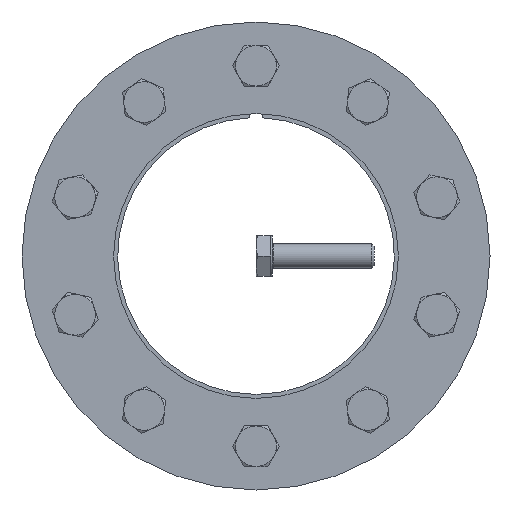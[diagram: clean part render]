
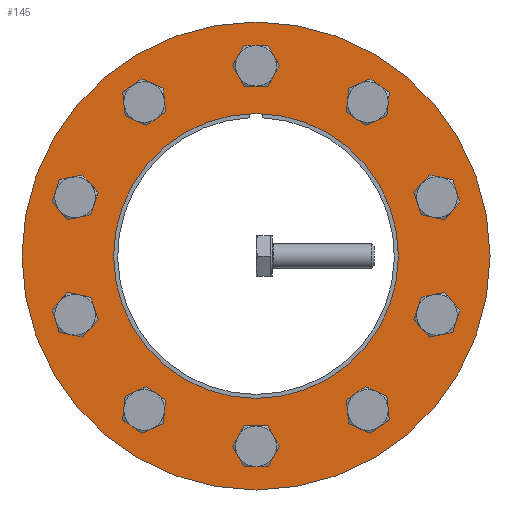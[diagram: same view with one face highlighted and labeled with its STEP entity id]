
A CAD part, front view. The second image highlights one B-rep face of the part: STEP entity #145.
In plain terms, the highlighted planar face has unit normal (0, -1, 0).
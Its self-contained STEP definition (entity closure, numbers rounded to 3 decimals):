
#145 = ADVANCED_FACE( '', ( #345, #346, #347, #348, #349, #350, #351, #352, #353, #354, #355, #356 ), #357, .F. );
#345 = FACE_BOUND( '', #578, .T. );
#346 = FACE_BOUND( '', #579, .T. );
#347 = FACE_BOUND( '', #580, .T. );
#348 = FACE_BOUND( '', #581, .T. );
#349 = FACE_BOUND( '', #582, .T. );
#350 = FACE_BOUND( '', #583, .T. );
#351 = FACE_OUTER_BOUND( '', #584, .T. );
#352 = FACE_BOUND( '', #585, .T. );
#353 = FACE_BOUND( '', #586, .T. );
#354 = FACE_BOUND( '', #587, .T. );
#355 = FACE_BOUND( '', #588, .T. );
#356 = FACE_BOUND( '', #589, .T. );
#357 = PLANE( '', #590 );
#578 = EDGE_LOOP( '', ( #945 ) );
#579 = EDGE_LOOP( '', ( #946 ) );
#580 = EDGE_LOOP( '', ( #947 ) );
#581 = EDGE_LOOP( '', ( #948 ) );
#582 = EDGE_LOOP( '', ( #949 ) );
#583 = EDGE_LOOP( '', ( #950 ) );
#584 = EDGE_LOOP( '', ( #951 ) );
#585 = EDGE_LOOP( '', ( #952 ) );
#586 = EDGE_LOOP( '', ( #953 ) );
#587 = EDGE_LOOP( '', ( #954 ) );
#588 = EDGE_LOOP( '', ( #955 ) );
#589 = EDGE_LOOP( '', ( #956 ) );
#590 = AXIS2_PLACEMENT_3D( '', #957, #958, #959 );
#945 = ORIENTED_EDGE( '', *, *, #1118, .T. );
#946 = ORIENTED_EDGE( '', *, *, #1140, .T. );
#947 = ORIENTED_EDGE( '', *, *, #1201, .T. );
#948 = ORIENTED_EDGE( '', *, *, #1169, .T. );
#949 = ORIENTED_EDGE( '', *, *, #1129, .T. );
#950 = ORIENTED_EDGE( '', *, *, #1210, .F. );
#951 = ORIENTED_EDGE( '', *, *, #1115, .T. );
#952 = ORIENTED_EDGE( '', *, *, #1126, .T. );
#953 = ORIENTED_EDGE( '', *, *, #1192, .T. );
#954 = ORIENTED_EDGE( '', *, *, #1121, .T. );
#955 = ORIENTED_EDGE( '', *, *, #1181, .T. );
#956 = ORIENTED_EDGE( '', *, *, #1211, .T. );
#957 = CARTESIAN_POINT( '', ( 0., -15.25, 57.5 ) );
#958 = DIRECTION( '', ( 0., 1., 0. ) );
#959 = DIRECTION( '', ( 0., 0., 1. ) );
#1115 = EDGE_CURVE( '', #1317, #1317, #1318, .T. );
#1118 = EDGE_CURVE( '', #1322, #1322, #1323, .T. );
#1121 = EDGE_CURVE( '', #1327, #1327, #1328, .T. );
#1126 = EDGE_CURVE( '', #1335, #1335, #1336, .T. );
#1129 = EDGE_CURVE( '', #1340, #1340, #1341, .T. );
#1140 = EDGE_CURVE( '', #1359, #1359, #1360, .T. );
#1169 = EDGE_CURVE( '', #1411, #1411, #1412, .T. );
#1181 = EDGE_CURVE( '', #1428, #1428, #1429, .T. );
#1192 = EDGE_CURVE( '', #1443, #1443, #1444, .T. );
#1201 = EDGE_CURVE( '', #1455, #1455, #1456, .T. );
#1210 = EDGE_CURVE( '', #1465, #1465, #1466, .T. );
#1211 = EDGE_CURVE( '', #1467, #1467, #1468, .T. );
#1317 = VERTEX_POINT( '', #1691 );
#1318 = CIRCLE( '', #1692, 57.5 );
#1322 = VERTEX_POINT( '', #1696 );
#1323 = CIRCLE( '', #1697, 3. );
#1327 = VERTEX_POINT( '', #1701 );
#1328 = CIRCLE( '', #1702, 3. );
#1335 = VERTEX_POINT( '', #1709 );
#1336 = CIRCLE( '', #1710, 3. );
#1340 = VERTEX_POINT( '', #1714 );
#1341 = CIRCLE( '', #1715, 3. );
#1359 = VERTEX_POINT( '', #1735 );
#1360 = CIRCLE( '', #1736, 3. );
#1411 = VERTEX_POINT( '', #1790 );
#1412 = CIRCLE( '', #1791, 3. );
#1428 = VERTEX_POINT( '', #1819 );
#1429 = CIRCLE( '', #1820, 3. );
#1443 = VERTEX_POINT( '', #1838 );
#1444 = CIRCLE( '', #1839, 3. );
#1455 = VERTEX_POINT( '', #1856 );
#1456 = CIRCLE( '', #1857, 3. );
#1465 = VERTEX_POINT( '', #1872 );
#1466 = CIRCLE( '', #1873, 35. );
#1467 = VERTEX_POINT( '', #1874 );
#1468 = CIRCLE( '', #1875, 3. );
#1691 = CARTESIAN_POINT( '', ( 0., -15.25, -57.5 ) );
#1692 = AXIS2_PLACEMENT_3D( '', #1981, #1982, #1983 );
#1696 = CARTESIAN_POINT( '', ( -43.535, -15.25, 17.3 ) );
#1697 = AXIS2_PLACEMENT_3D( '', #1987, #1988, #1989 );
#1701 = CARTESIAN_POINT( '', ( -3., -15.25, -46.75 ) );
#1702 = AXIS2_PLACEMENT_3D( '', #1993, #1994, #1995 );
#1709 = CARTESIAN_POINT( '', ( 29.906, -15.25, 36.058 ) );
#1710 = AXIS2_PLACEMENT_3D( '', #2002, #2003, #2004 );
#1714 = CARTESIAN_POINT( '', ( 3., -15.25, 46.75 ) );
#1715 = AXIS2_PLACEMENT_3D( '', #2008, #2009, #2010 );
#1735 = CARTESIAN_POINT( '', ( -29.906, -15.25, -36.058 ) );
#1736 = AXIS2_PLACEMENT_3D( '', #2028, #2029, #2030 );
#1790 = CARTESIAN_POINT( '', ( 45.389, -15.25, 11.593 ) );
#1791 = AXIS2_PLACEMENT_3D( '', #2091, #2092, #2093 );
#1819 = CARTESIAN_POINT( '', ( -45.389, -15.25, -11.593 ) );
#1820 = AXIS2_PLACEMENT_3D( '', #2100, #2101, #2102 );
#1838 = CARTESIAN_POINT( '', ( 43.535, -15.25, -17.3 ) );
#1839 = AXIS2_PLACEMENT_3D( '', #2113, #2114, #2115 );
#1856 = CARTESIAN_POINT( '', ( 25.052, -15.25, -39.585 ) );
#1857 = AXIS2_PLACEMENT_3D( '', #2122, #2123, #2124 );
#1872 = CARTESIAN_POINT( '', ( 0., -15.25, -35. ) );
#1873 = AXIS2_PLACEMENT_3D( '', #2128, #2129, #2130 );
#1874 = CARTESIAN_POINT( '', ( -25.052, -15.25, 39.585 ) );
#1875 = AXIS2_PLACEMENT_3D( '', #2131, #2132, #2133 );
#1981 = CARTESIAN_POINT( '', ( 0., -15.25, 0. ) );
#1982 = DIRECTION( '', ( 0., -1., 0. ) );
#1983 = DIRECTION( '', ( 0., 0., -1. ) );
#1987 = CARTESIAN_POINT( '', ( -44.462, -15.25, 14.447 ) );
#1988 = DIRECTION( '', ( 0., 1., 0. ) );
#1989 = DIRECTION( '', ( 0.309, 0., 0.951 ) );
#1993 = CARTESIAN_POINT( '', ( 0., -15.25, -46.75 ) );
#1994 = DIRECTION( '', ( 0., 1., 0. ) );
#1995 = DIRECTION( '', ( -1., 0., 0. ) );
#2002 = CARTESIAN_POINT( '', ( 27.479, -15.25, 37.822 ) );
#2003 = DIRECTION( '', ( 0., 1., 0. ) );
#2004 = DIRECTION( '', ( 0.809, 0., -0.588 ) );
#2008 = CARTESIAN_POINT( '', ( 0., -15.25, 46.75 ) );
#2009 = DIRECTION( '', ( 0., 1., 0. ) );
#2010 = DIRECTION( '', ( 1., 0., 0. ) );
#2028 = CARTESIAN_POINT( '', ( -27.479, -15.25, -37.822 ) );
#2029 = DIRECTION( '', ( 0., 1., 0. ) );
#2030 = DIRECTION( '', ( -0.809, 0., 0.588 ) );
#2091 = CARTESIAN_POINT( '', ( 44.462, -15.25, 14.447 ) );
#2092 = DIRECTION( '', ( 0., 1., 0. ) );
#2093 = DIRECTION( '', ( 0.309, 0., -0.951 ) );
#2100 = CARTESIAN_POINT( '', ( -44.462, -15.25, -14.447 ) );
#2101 = DIRECTION( '', ( 0., 1., 0. ) );
#2102 = DIRECTION( '', ( -0.309, 0., 0.951 ) );
#2113 = CARTESIAN_POINT( '', ( 44.462, -15.25, -14.447 ) );
#2114 = DIRECTION( '', ( 0., 1., 0. ) );
#2115 = DIRECTION( '', ( -0.309, 0., -0.951 ) );
#2122 = CARTESIAN_POINT( '', ( 27.479, -15.25, -37.822 ) );
#2123 = DIRECTION( '', ( 0., 1., 0. ) );
#2124 = DIRECTION( '', ( -0.809, 0., -0.588 ) );
#2128 = CARTESIAN_POINT( '', ( 0., -15.25, 0. ) );
#2129 = DIRECTION( '', ( 0., -1., 0. ) );
#2130 = DIRECTION( '', ( 0., 0., -1. ) );
#2131 = CARTESIAN_POINT( '', ( -27.479, -15.25, 37.822 ) );
#2132 = DIRECTION( '', ( 0., 1., 0. ) );
#2133 = DIRECTION( '', ( 0.809, 0., 0.588 ) );
